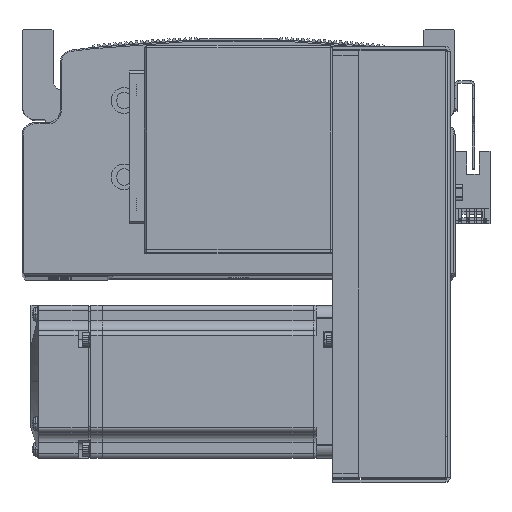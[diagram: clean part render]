
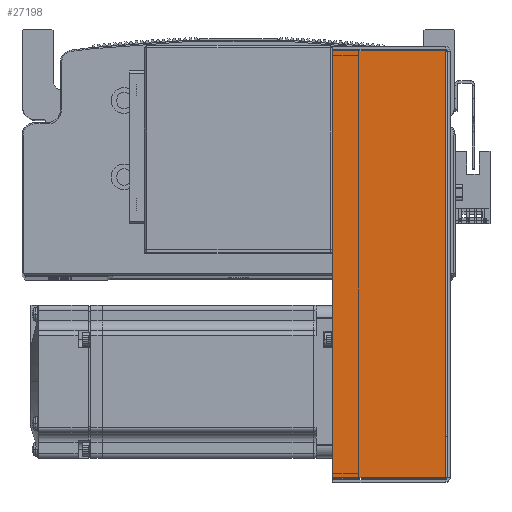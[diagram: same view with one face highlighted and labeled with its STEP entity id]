
A CAD part, top view. The second image highlights one B-rep face of the part: STEP entity #27198.
In plain terms, the highlighted planar face has unit normal (0, 0, 1) as drawn and (0, 0, -1) by its records, which use the part's own axes.
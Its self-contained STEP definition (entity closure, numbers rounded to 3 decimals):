
#1592 = EDGE_LOOP ( 'NONE', ( #21789, #21773, #21777, #21801 ) ) ;
#10287 = VERTEX_POINT ( 'NONE', #80935 ) ;
#10319 = VERTEX_POINT ( 'NONE', #80856 ) ;
#10379 = VERTEX_POINT ( 'NONE', #81064 ) ;
#10453 = VERTEX_POINT ( 'NONE', #80969 ) ;
#19909 = AXIS2_PLACEMENT_3D ( 'NONE', #50733, #50759, #50761 ) ;
#21773 = ORIENTED_EDGE ( 'NONE', *, *, #35408, .T. ) ;
#21777 = ORIENTED_EDGE ( 'NONE', *, *, #35343, .T. ) ;
#21789 = ORIENTED_EDGE ( 'NONE', *, *, #35413, .F. ) ;
#21801 = ORIENTED_EDGE ( 'NONE', *, *, #35431, .F. ) ;
#27198 = ADVANCED_FACE ( 'NONE', ( #38642 ), #50791, .F. ) ;
#35343 = EDGE_CURVE ( 'NONE', #10319, #10287, #37473, .T. ) ;
#35408 = EDGE_CURVE ( 'NONE', #10379, #10319, #37532, .T. ) ;
#35413 = EDGE_CURVE ( 'NONE', #10379, #10453, #37516, .T. ) ;
#35431 = EDGE_CURVE ( 'NONE', #10453, #10287, #37596, .T. ) ;
#37415 = VECTOR ( 'NONE', #71995, 1000. ) ;
#37473 = LINE ( 'NONE', #74250, #37415 ) ;
#37496 = VECTOR ( 'NONE', #69287, 1000. ) ;
#37516 = LINE ( 'NONE', #69229, #37544 ) ;
#37532 = LINE ( 'NONE', #69261, #37496 ) ;
#37544 = VECTOR ( 'NONE', #69290, 1000. ) ;
#37568 = VECTOR ( 'NONE', #67487, 1000. ) ;
#37596 = LINE ( 'NONE', #67482, #37568 ) ;
#38642 = FACE_OUTER_BOUND ( 'NONE', #1592, .T. ) ;
#50733 = CARTESIAN_POINT ( 'NONE',  ( 0., 0., -40.5 ) ) ;
#50759 = DIRECTION ( 'NONE',  ( 0., 0., 1. ) ) ;
#50761 = DIRECTION ( 'NONE',  ( 0., -1., 0. ) ) ;
#50791 = PLANE ( 'NONE',  #19909 ) ;
#67482 = CARTESIAN_POINT ( 'NONE',  ( 83.793, 0., -40.5 ) ) ;
#67487 = DIRECTION ( 'NONE',  ( 0., 1., 0. ) ) ;
#69229 = CARTESIAN_POINT ( 'NONE',  ( 0., 0.737, -40.5 ) ) ;
#69261 = CARTESIAN_POINT ( 'NONE',  ( -83.793, 0., -40.5 ) ) ;
#69287 = DIRECTION ( 'NONE',  ( 0., 1., 0. ) ) ;
#69290 = DIRECTION ( 'NONE',  ( 1., 0., 0. ) ) ;
#71995 = DIRECTION ( 'NONE',  ( 1., 0., 0. ) ) ;
#74250 = CARTESIAN_POINT ( 'NONE',  ( 84.5, 45., -40.5 ) ) ;
#80856 = CARTESIAN_POINT ( 'NONE',  ( -83.793, 45., -40.5 ) ) ;
#80935 = CARTESIAN_POINT ( 'NONE',  ( 83.793, 45., -40.5 ) ) ;
#80969 = CARTESIAN_POINT ( 'NONE',  ( 83.793, 0.737, -40.5 ) ) ;
#81064 = CARTESIAN_POINT ( 'NONE',  ( -83.793, 0.737, -40.5 ) ) ;
